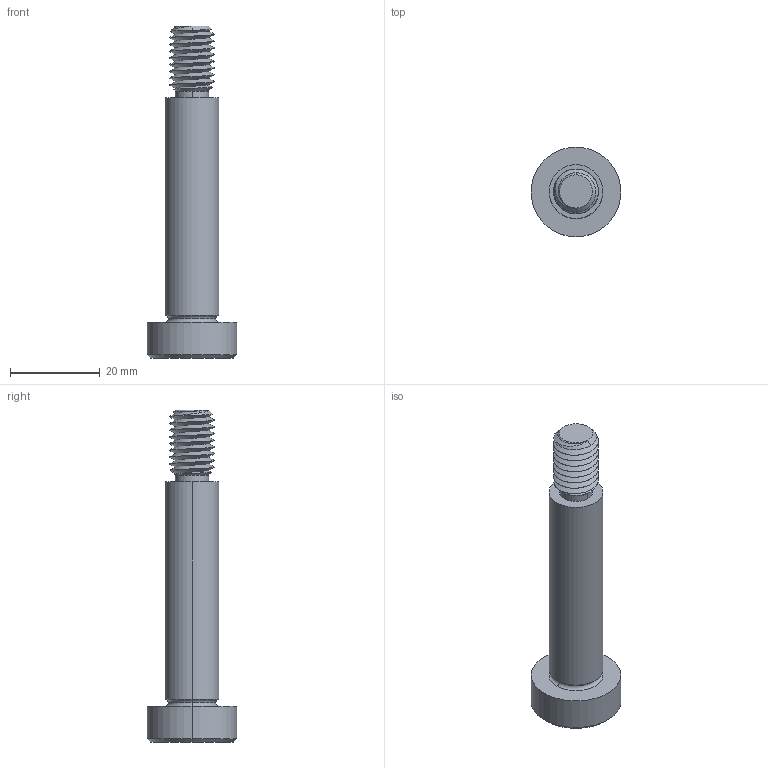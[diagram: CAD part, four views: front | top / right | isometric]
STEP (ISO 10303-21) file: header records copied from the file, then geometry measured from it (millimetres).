
FILE_DESCRIPTION (( 'STEP AP203' ), '1' );
FILE_NAME ('P0130.120-050-B2.step', '2021-11-09T22:07:36', ( '' ), ( '' ), 'SwSTEP 2.0', 'SolidWorks 2019', '' );
FILE_SCHEMA (( 'CONFIG_CONTROL_DESIGN' ));
Length unit declared in the file: millimetre
Products named in the file (1): P0130.120-050-B2
Bounding box: 20 x 20 x 74 mm (x, y, z)
Volume: 8830.9 mm3; surface area: 3942.2 mm2
Topology: 1 solids, 1 shells, 60 faces, 142 edges, 85 vertices
Faces by surface type: cylinder 23, plane 16, cone 15, torus 4, bspline 2
Entity records: 3534 total; most frequent: CARTESIAN_POINT 2187, ORIENTED_EDGE 280, DIRECTION 247, EDGE_CURVE 140, AXIS2_PLACEMENT_3D 99, VERTEX_POINT 85, EDGE_LOOP 63, ADVANCED_FACE 60
